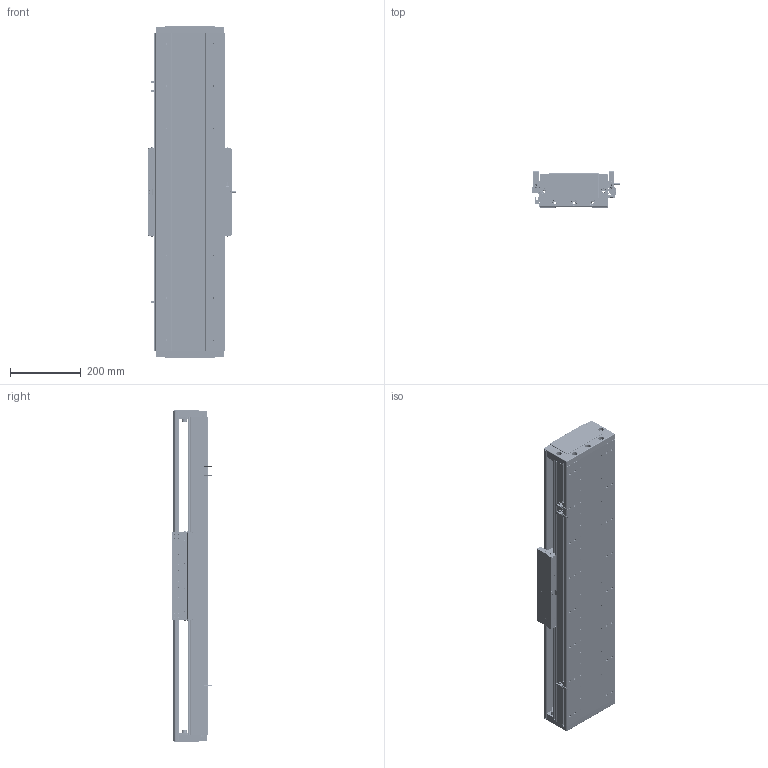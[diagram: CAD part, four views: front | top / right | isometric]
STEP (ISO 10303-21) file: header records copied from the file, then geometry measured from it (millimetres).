
FILE_DESCRIPTION (( 'STEP AP203' ), '1' );
FILE_NAME ('DA-C195-C3-T600-C010-0.2 眻盄萇儂.STEP', '2025-08-15T01:42:52', ( '' ), ( '' ), 'SwSTEP 2.0', 'SolidWorks 2019', '' );
FILE_SCHEMA (( 'CONFIG_CONTROL_DESIGN' ));
Length unit declared in the file: millimetre
Products named in the file (12): MS200 棠掑喜S315-T240; LMT黍杅芛; DA95-HXJ-00 遣喳砎蝶; DA-C195-C3-T600-C010-0.2 眻盄萇儂; DA195-DG-H-00  端盖（压铸镂空版）; DA165-GYP-00 光电感应片(默认); CU195-C3賑輸-俋楷; 葩璃 DA95-GT-T-00; PM-T45ㄗ侂狟ㄘ; IU-CU195-L-00 菁釱(L900); IU-CU195-L 菁釱絳寢; 66156-0001-003-00 裔啣
Assembly tree (20 placements, depth 3):
  DA-C195-C3-T600-C010-0.2 眻盄萇儂
    IU-CU195-L 菁釱絳寢
      IU-CU195-L-00 菁釱(L900)
      葩璃 DA95-GT-T-00  x4
    LMT黍杅芛
    MS200 棠掑喜S315-T240
    PM-T45ㄗ侂狟ㄘ  x3
    DA165-GYP-00 光电感应片(默认)
    DA195-DG-H-00  端盖（压铸镂空版）  x2
    DA95-HXJ-00 遣喳砎蝶  x4
    66156-0001-003-00 裔啣
    CU195-C3賑輸-俋楷
Bounding box: 248 x 115.6 x 940 mm (x, y, z)
Volume: 7283116 mm3; surface area: 2043503.8 mm2
Topology: 78 solids, 118 shells, 5097 faces, 12976 edges, 7875 vertices
Faces by surface type: cylinder 2168, plane 1595, bspline 710, cone 544, torus 44, sphere 36
Entity records: 139077 total; most frequent: CARTESIAN_POINT 42857, ORIENTED_EDGE 20038, DIRECTION 19358, EDGE_CURVE 10019, AXIS2_PLACEMENT_3D 7191, VERTEX_POINT 6305, VECTOR 4976, LINE 4976
